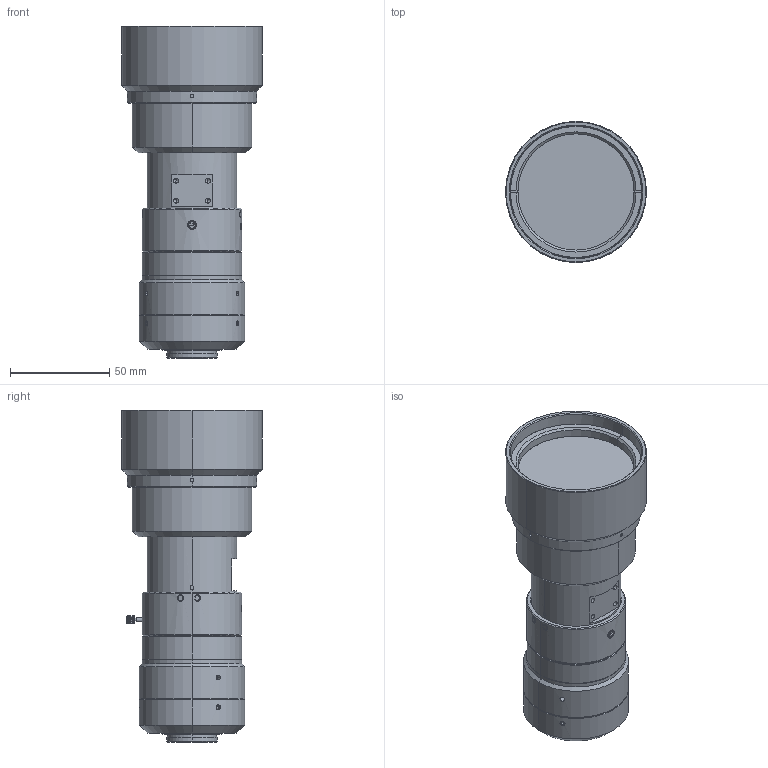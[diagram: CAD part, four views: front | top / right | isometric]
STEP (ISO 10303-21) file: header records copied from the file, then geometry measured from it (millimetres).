
FILE_DESCRIPTION (( 'STEP AP203' ), '1' );
FILE_NAME ('A22566A0000101A.STEP', '2016-11-30T06:38:53', ( '' ), ( '' ), 'SwSTEP 2.0', 'SolidWorks 2014', '' );
FILE_SCHEMA (( 'CONFIG_CONTROL_DESIGN' ));
Length unit declared in the file: millimetre
Products named in the file (1): A22566A0000101A
Bounding box: 71 x 71 x 167.18 mm (x, y, z)
Volume: 373461.3 mm3; surface area: 40688.5 mm2
Topology: 1 solids, 1 shells, 452 faces, 1164 edges, 752 vertices
Faces by surface type: cylinder 182, plane 156, cone 78, bspline 36
Entity records: 22069 total; most frequent: CARTESIAN_POINT 11739, ORIENTED_EDGE 2312, DIRECTION 1830, EDGE_CURVE 1156, VERTEX_POINT 752, AXIS2_PLACEMENT_3D 683, EDGE_LOOP 498, LINE 464
